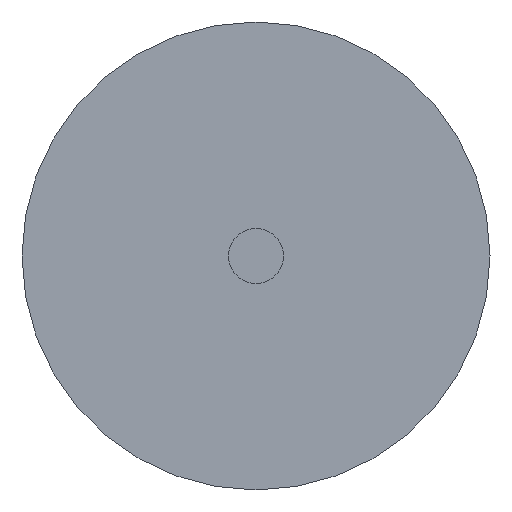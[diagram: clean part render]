
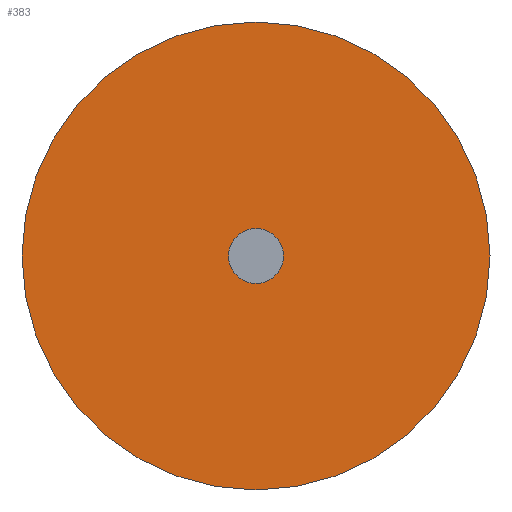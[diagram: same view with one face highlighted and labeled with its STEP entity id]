
A CAD part, front view. The second image highlights one B-rep face of the part: STEP entity #383.
In plain terms, the highlighted planar face has unit normal (0, -1, 0).
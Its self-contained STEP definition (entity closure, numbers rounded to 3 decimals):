
#16 = CARTESIAN_POINT ( 'NONE',  ( -12.75, -6.75, 0. ) ) ;
#20 = CARTESIAN_POINT ( 'NONE',  ( 0., -6.75, 0. ) ) ;
#23 = EDGE_LOOP ( 'NONE', ( #44, #338 ) ) ;
#30 = CARTESIAN_POINT ( 'NONE',  ( 0., -6.75, 0. ) ) ;
#38 = VERTEX_POINT ( 'NONE', #16 ) ;
#39 = CARTESIAN_POINT ( 'NONE',  ( 0., -6.75, 0. ) ) ;
#43 = CIRCLE ( 'NONE', #46, 0.75 ) ;
#44 = ORIENTED_EDGE ( 'NONE', *, *, #373, .T. ) ;
#46 = AXIS2_PLACEMENT_3D ( 'NONE', #30, #507, #204 ) ;
#67 = CIRCLE ( 'NONE', #329, 12.75 ) ;
#112 = VERTEX_POINT ( 'NONE', #400 ) ;
#113 = DIRECTION ( 'NONE',  ( -1., 0., 0. ) ) ;
#116 = PLANE ( 'NONE',  #506 ) ;
#131 = CIRCLE ( 'NONE', #568, 12.75 ) ;
#142 = VERTEX_POINT ( 'NONE', #261 ) ;
#148 = ORIENTED_EDGE ( 'NONE', *, *, #485, .F. ) ;
#168 = CARTESIAN_POINT ( 'NONE',  ( 0., -6.75, 0. ) ) ;
#171 = DIRECTION ( 'NONE',  ( 0., 1., 0. ) ) ;
#177 = FACE_OUTER_BOUND ( 'NONE', #459, .T. ) ;
#204 = DIRECTION ( 'NONE',  ( -1., 0., 0. ) ) ;
#205 = DIRECTION ( 'NONE',  ( -1., 0., 0. ) ) ;
#226 = CIRCLE ( 'NONE', #349, 0.75 ) ;
#240 = DIRECTION ( 'NONE',  ( -1., 0., 0. ) ) ;
#261 = CARTESIAN_POINT ( 'NONE',  ( 12.75, -6.75, 0. ) ) ;
#283 = EDGE_CURVE ( 'NONE', #142, #38, #131, .T. ) ;
#329 = AXIS2_PLACEMENT_3D ( 'NONE', #168, #171, #478 ) ;
#332 = CARTESIAN_POINT ( 'NONE',  ( -0.75, -6.75, 0. ) ) ;
#338 = ORIENTED_EDGE ( 'NONE', *, *, #532, .T. ) ;
#349 = AXIS2_PLACEMENT_3D ( 'NONE', #39, #435, #205 ) ;
#351 = VERTEX_POINT ( 'NONE', #332 ) ;
#370 = DIRECTION ( 'NONE',  ( 0., 1., 0. ) ) ;
#373 = EDGE_CURVE ( 'NONE', #351, #112, #43, .T. ) ;
#383 = ADVANCED_FACE ( 'NONE', ( #177, #514 ), #116, .F. ) ;
#400 = CARTESIAN_POINT ( 'NONE',  ( 0.75, -6.75, 0. ) ) ;
#424 = DIRECTION ( 'NONE',  ( 0., 1., 0. ) ) ;
#435 = DIRECTION ( 'NONE',  ( 0., 1., 0. ) ) ;
#459 = EDGE_LOOP ( 'NONE', ( #148, #574 ) ) ;
#464 = CARTESIAN_POINT ( 'NONE',  ( 0.75, -6.75, 0. ) ) ;
#478 = DIRECTION ( 'NONE',  ( -1., 0., 0. ) ) ;
#485 = EDGE_CURVE ( 'NONE', #38, #142, #67, .T. ) ;
#506 = AXIS2_PLACEMENT_3D ( 'NONE', #464, #424, #240 ) ;
#507 = DIRECTION ( 'NONE',  ( 0., 1., 0. ) ) ;
#514 = FACE_BOUND ( 'NONE', #23, .T. ) ;
#532 = EDGE_CURVE ( 'NONE', #112, #351, #226, .T. ) ;
#568 = AXIS2_PLACEMENT_3D ( 'NONE', #20, #370, #113 ) ;
#574 = ORIENTED_EDGE ( 'NONE', *, *, #283, .F. ) ;
